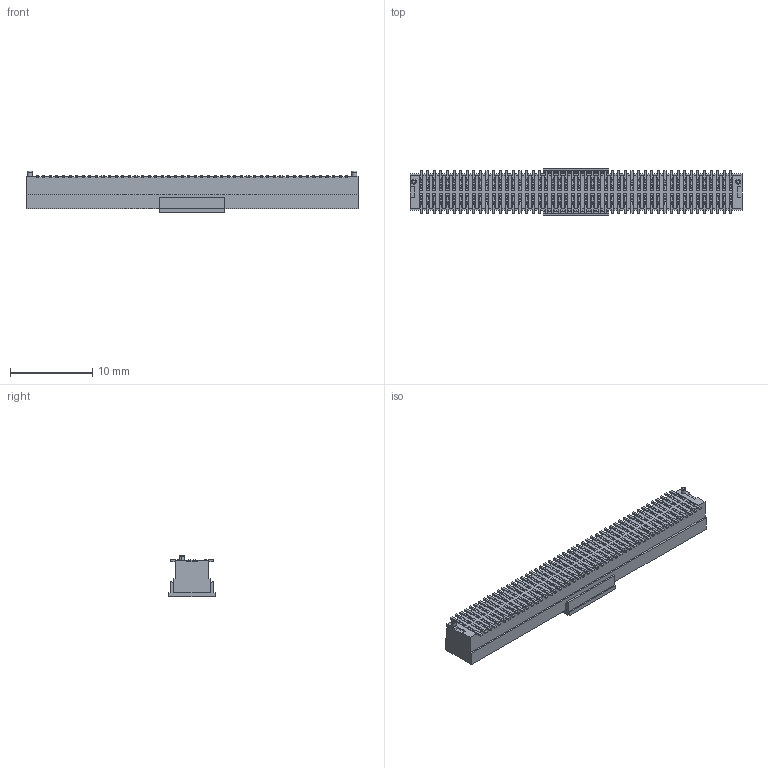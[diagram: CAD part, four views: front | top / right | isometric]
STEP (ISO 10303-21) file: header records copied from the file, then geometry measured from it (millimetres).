
FILE_DESCRIPTION (( 'STEP AP203' ), '1' );
FILE_NAME ('HC-PBB08-2-96-F-H4.0-G1-R-P-04(BTB0.8 双槽 母座 立贴 带柱 编带+盖)-HCTL.STEP', '2025-12-15T02:35:15', ( '' ), ( '' ), 'SwSTEP 2.0', 'SolidWorks 2025', '' );
FILE_SCHEMA (( 'CONFIG_CONTROL_DESIGN' ));
Products named in the file (1): HC-PBB08-2-96-F-H4.0-G1-R-P-04(BTB0.8 双槽 母座 立贴 带柱 编带+盖)-HCTL
Bounding box: 40.3 x 5.6 x 5.05 mm (x, y, z)
Volume: 545.7 mm3; surface area: 2924.7 mm2
Topology: 2 solids, 2 shells, 7374 faces, 23070 edges, 15148 vertices
Faces by surface type: plane 4870, cylinder 2500, torus 4
Entity records: 257549 total; most frequent: CARTESIAN_POINT 47261, ORIENTED_EDGE 46140, DIRECTION 42272, EDGE_CURVE 23070, LINE 17506, VECTOR 17506, VERTEX_POINT 15148, AXIS2_PLACEMENT_3D 12383
